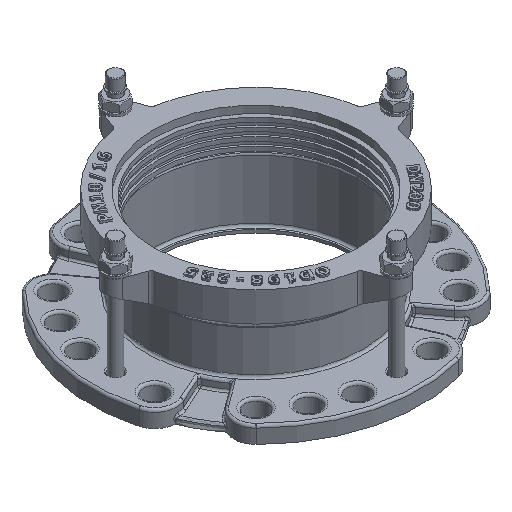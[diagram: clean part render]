
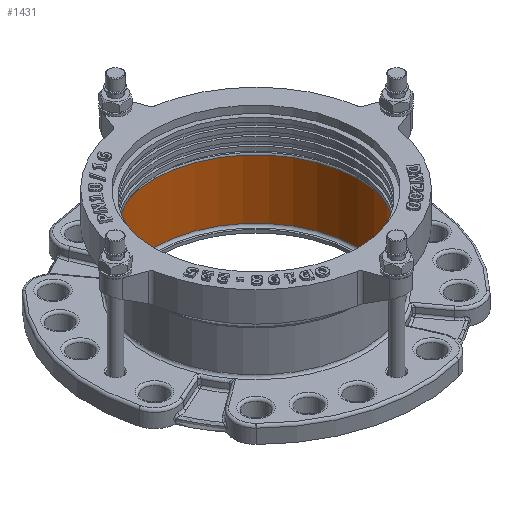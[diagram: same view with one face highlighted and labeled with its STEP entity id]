
A CAD part, isometric view. The second image highlights one B-rep face of the part: STEP entity #1431.
In plain terms, the highlighted cylindrical face has radius 105 mm (diameter 210 mm), a full revolution.
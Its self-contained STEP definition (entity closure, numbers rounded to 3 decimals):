
#1431=ADVANCED_FACE('',(#8690,#8692),#8694,.F.);
#8690=FACE_OUTER_BOUND('',#8691,.T.);
#8691=EDGE_LOOP('',(#16271));
#8692=FACE_OUTER_BOUND('',#8693,.T.);
#8693=EDGE_LOOP('',(#16272));
#8694=CYLINDRICAL_SURFACE('',#8695,105.);
#8695=AXIS2_PLACEMENT_3D('',#8696,#8697,#8698);
#8696=CARTESIAN_POINT('',(0.,0.,3.));
#8697=DIRECTION('',(0.,0.,1.));
#8698=DIRECTION('',(-1.,0.,0.));
#16271=ORIENTED_EDGE('',*,*,#21481,.F.);
#16272=ORIENTED_EDGE('',*,*,#21474,.T.);
#21474=EDGE_CURVE('',#24219,#24219,#24220,.F.);
#21481=EDGE_CURVE('',#24228,#24228,#24229,.T.);
#24219=VERTEX_POINT('',#32815);
#24220=CIRCLE('',#32816,105.);
#24228=VERTEX_POINT('',#32845);
#24229=CIRCLE('',#32846,105.);
#32815=CARTESIAN_POINT('',(0.,105.,5.5));
#32816=AXIS2_PLACEMENT_3D('',#32817,#32818,#32819);
#32817=CARTESIAN_POINT('',(0.,0.,5.5));
#32818=DIRECTION('',(0.,0.,1.));
#32819=DIRECTION('',(0.,1.,0.));
#32845=CARTESIAN_POINT('',(0.,105.,66.25));
#32846=AXIS2_PLACEMENT_3D('',#32847,#32848,#32849);
#32847=CARTESIAN_POINT('',(0.,0.,66.25));
#32848=DIRECTION('',(0.,0.,-1.));
#32849=DIRECTION('',(0.,1.,0.));
